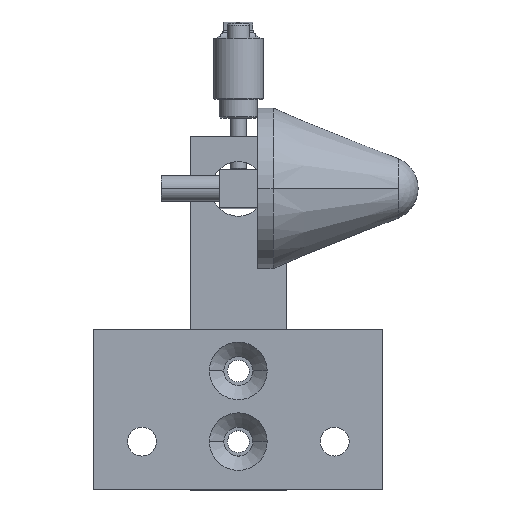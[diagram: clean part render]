
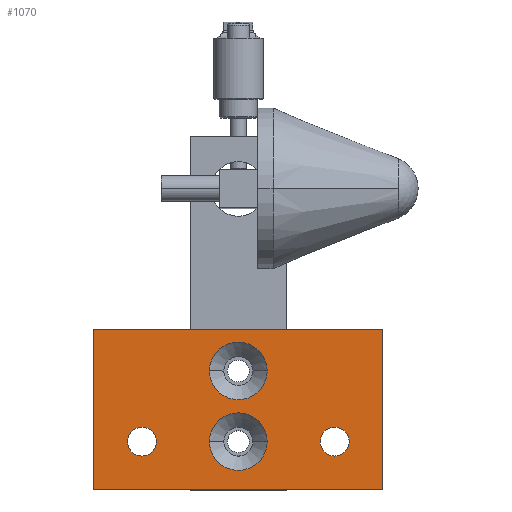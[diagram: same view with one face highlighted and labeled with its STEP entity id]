
A CAD part, top view. The second image highlights one B-rep face of the part: STEP entity #1070.
In plain terms, the highlighted planar face has unit normal (0, 0, 1).
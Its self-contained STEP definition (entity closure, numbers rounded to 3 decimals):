
#49 = EDGE_CURVE ( 'NONE', #2408, #571, #1381, .T. ) ;
#84 = VECTOR ( 'NONE', #3631, 1000. ) ;
#102 = DIRECTION ( 'NONE',  ( 1., 0., 0. ) ) ;
#206 = AXIS2_PLACEMENT_3D ( 'NONE', #3302, #3636, #1041 ) ;
#247 = AXIS2_PLACEMENT_3D ( 'NONE', #3630, #3945, #1648 ) ;
#287 = VERTEX_POINT ( 'NONE', #1773 ) ;
#296 = DIRECTION ( 'NONE',  ( 0., 0., 1. ) ) ;
#347 = DIRECTION ( 'NONE',  ( 1., 0., 0. ) ) ;
#380 = CARTESIAN_POINT ( 'NONE',  ( 0., 12., 5. ) ) ;
#430 = EDGE_LOOP ( 'NONE', ( #867, #4190, #1376, #1577 ) ) ;
#571 = VERTEX_POINT ( 'NONE', #3309 ) ;
#590 = AXIS2_PLACEMENT_3D ( 'NONE', #1762, #1409, #102 ) ;
#603 = CIRCLE ( 'NONE', #206, 4.5 ) ;
#627 = CARTESIAN_POINT ( 'NONE',  ( -45., -25., 5. ) ) ;
#661 = DIRECTION ( 'NONE',  ( 0., -1., 0. ) ) ;
#716 = CARTESIAN_POINT ( 'NONE',  ( -45., -25., 5. ) ) ;
#740 = CIRCLE ( 'NONE', #1638, 8.96 ) ;
#761 = DIRECTION ( 'NONE',  ( 1., 0., 0. ) ) ;
#841 = EDGE_CURVE ( 'NONE', #1361, #3232, #1243, .T. ) ;
#867 = ORIENTED_EDGE ( 'NONE', *, *, #3312, .T. ) ;
#927 = VECTOR ( 'NONE', #661, 1000. ) ;
#975 = CIRCLE ( 'NONE', #3960, 8.96 ) ;
#996 = CIRCLE ( 'NONE', #2132, 4.5 ) ;
#1041 = DIRECTION ( 'NONE',  ( 1., 0., 0. ) ) ;
#1045 = EDGE_CURVE ( 'NONE', #571, #2408, #4241, .T. ) ;
#1070 = ADVANCED_FACE ( 'NONE', ( #3347, #1199, #3779, #3521, #2725 ), #3062, .T. ) ;
#1112 = CARTESIAN_POINT ( 'NONE',  ( 8.96, -10., 5. ) ) ;
#1147 = EDGE_LOOP ( 'NONE', ( #1729, #4063 ) ) ;
#1182 = ORIENTED_EDGE ( 'NONE', *, *, #3419, .F. ) ;
#1196 = AXIS2_PLACEMENT_3D ( 'NONE', #2100, #1802, #3479 ) ;
#1199 = FACE_BOUND ( 'NONE', #1147, .T. ) ;
#1243 = CIRCLE ( 'NONE', #4147, 8.96 ) ;
#1361 = VERTEX_POINT ( 'NONE', #2855 ) ;
#1369 = CARTESIAN_POINT ( 'NONE',  ( 0., -10., 5. ) ) ;
#1376 = ORIENTED_EDGE ( 'NONE', *, *, #3025, .T. ) ;
#1381 = CIRCLE ( 'NONE', #247, 4.5 ) ;
#1409 = DIRECTION ( 'NONE',  ( 0., 0., 1. ) ) ;
#1426 = VERTEX_POINT ( 'NONE', #1112 ) ;
#1440 = EDGE_LOOP ( 'NONE', ( #2541, #2781 ) ) ;
#1474 = EDGE_LOOP ( 'NONE', ( #2660, #3253 ) ) ;
#1500 = EDGE_CURVE ( 'NONE', #1426, #2410, #740, .T. ) ;
#1566 = CARTESIAN_POINT ( 'NONE',  ( -30., -10., 5. ) ) ;
#1577 = ORIENTED_EDGE ( 'NONE', *, *, #2782, .T. ) ;
#1638 = AXIS2_PLACEMENT_3D ( 'NONE', #3159, #3504, #1868 ) ;
#1648 = DIRECTION ( 'NONE',  ( 1., 0., 0. ) ) ;
#1729 = ORIENTED_EDGE ( 'NONE', *, *, #1045, .F. ) ;
#1753 = AXIS2_PLACEMENT_3D ( 'NONE', #2293, #296, #347 ) ;
#1762 = CARTESIAN_POINT ( 'NONE',  ( -45., -25., 5. ) ) ;
#1773 = CARTESIAN_POINT ( 'NONE',  ( -45., 25., 5. ) ) ;
#1802 = DIRECTION ( 'NONE',  ( 0., 0., 1. ) ) ;
#1815 = CARTESIAN_POINT ( 'NONE',  ( 25.5, -10., 5. ) ) ;
#1845 = EDGE_LOOP ( 'NONE', ( #3655, #1182 ) ) ;
#1868 = DIRECTION ( 'NONE',  ( 1., 0., 0. ) ) ;
#2027 = VERTEX_POINT ( 'NONE', #2304 ) ;
#2100 = CARTESIAN_POINT ( 'NONE',  ( 0., 12., 5. ) ) ;
#2129 = DIRECTION ( 'NONE',  ( 0., 0., 1. ) ) ;
#2132 = AXIS2_PLACEMENT_3D ( 'NONE', #1566, #4218, #3500 ) ;
#2238 = VERTEX_POINT ( 'NONE', #2893 ) ;
#2253 = CIRCLE ( 'NONE', #1196, 8.96 ) ;
#2293 = CARTESIAN_POINT ( 'NONE',  ( 30., -10., 5. ) ) ;
#2304 = CARTESIAN_POINT ( 'NONE',  ( 45., 25., 5. ) ) ;
#2408 = VERTEX_POINT ( 'NONE', #1815 ) ;
#2410 = VERTEX_POINT ( 'NONE', #4101 ) ;
#2422 = EDGE_CURVE ( 'NONE', #3232, #1361, #2253, .T. ) ;
#2541 = ORIENTED_EDGE ( 'NONE', *, *, #2422, .F. ) ;
#2557 = VECTOR ( 'NONE', #761, 1000. ) ;
#2660 = ORIENTED_EDGE ( 'NONE', *, *, #1500, .F. ) ;
#2725 = FACE_OUTER_BOUND ( 'NONE', #430, .T. ) ;
#2747 = CARTESIAN_POINT ( 'NONE',  ( -34.5, -10., 5. ) ) ;
#2766 = LINE ( 'NONE', #3964, #927 ) ;
#2781 = ORIENTED_EDGE ( 'NONE', *, *, #841, .F. ) ;
#2782 = EDGE_CURVE ( 'NONE', #2027, #287, #3453, .T. ) ;
#2855 = CARTESIAN_POINT ( 'NONE',  ( -8.96, 12., 5. ) ) ;
#2893 = CARTESIAN_POINT ( 'NONE',  ( -25.5, -10., 5. ) ) ;
#2923 = EDGE_CURVE ( 'NONE', #4084, #3656, #3394, .T. ) ;
#3012 = CARTESIAN_POINT ( 'NONE',  ( -45., 25., 5. ) ) ;
#3025 = EDGE_CURVE ( 'NONE', #3656, #2027, #3452, .T. ) ;
#3043 = DIRECTION ( 'NONE',  ( 0., 1., 0. ) ) ;
#3062 = PLANE ( 'NONE',  #590 ) ;
#3086 = VERTEX_POINT ( 'NONE', #2747 ) ;
#3159 = CARTESIAN_POINT ( 'NONE',  ( 0., -10., 5. ) ) ;
#3232 = VERTEX_POINT ( 'NONE', #4212 ) ;
#3236 = VECTOR ( 'NONE', #3043, 1000. ) ;
#3253 = ORIENTED_EDGE ( 'NONE', *, *, #3574, .F. ) ;
#3302 = CARTESIAN_POINT ( 'NONE',  ( -30., -10., 5. ) ) ;
#3309 = CARTESIAN_POINT ( 'NONE',  ( 34.5, -10., 5. ) ) ;
#3312 = EDGE_CURVE ( 'NONE', #287, #4084, #2766, .T. ) ;
#3347 = FACE_BOUND ( 'NONE', #1845, .T. ) ;
#3394 = LINE ( 'NONE', #716, #2557 ) ;
#3419 = EDGE_CURVE ( 'NONE', #3086, #2238, #603, .T. ) ;
#3452 = LINE ( 'NONE', #3757, #3236 ) ;
#3453 = LINE ( 'NONE', #3012, #84 ) ;
#3479 = DIRECTION ( 'NONE',  ( 1., 0., 0. ) ) ;
#3500 = DIRECTION ( 'NONE',  ( 1., 0., 0. ) ) ;
#3504 = DIRECTION ( 'NONE',  ( 0., 0., 1. ) ) ;
#3521 = FACE_BOUND ( 'NONE', #1474, .T. ) ;
#3574 = EDGE_CURVE ( 'NONE', #2410, #1426, #975, .T. ) ;
#3630 = CARTESIAN_POINT ( 'NONE',  ( 30., -10., 5. ) ) ;
#3631 = DIRECTION ( 'NONE',  ( -1., 0., 0. ) ) ;
#3636 = DIRECTION ( 'NONE',  ( 0., 0., 1. ) ) ;
#3637 = DIRECTION ( 'NONE',  ( 0., 0., 1. ) ) ;
#3655 = ORIENTED_EDGE ( 'NONE', *, *, #4039, .F. ) ;
#3656 = VERTEX_POINT ( 'NONE', #4037 ) ;
#3757 = CARTESIAN_POINT ( 'NONE',  ( 45., 25., 5. ) ) ;
#3779 = FACE_BOUND ( 'NONE', #1440, .T. ) ;
#3945 = DIRECTION ( 'NONE',  ( 0., 0., 1. ) ) ;
#3960 = AXIS2_PLACEMENT_3D ( 'NONE', #1369, #3637, #4021 ) ;
#3964 = CARTESIAN_POINT ( 'NONE',  ( -45., 25., 5. ) ) ;
#4021 = DIRECTION ( 'NONE',  ( 1., 0., 0. ) ) ;
#4037 = CARTESIAN_POINT ( 'NONE',  ( 45., -25., 5. ) ) ;
#4039 = EDGE_CURVE ( 'NONE', #2238, #3086, #996, .T. ) ;
#4063 = ORIENTED_EDGE ( 'NONE', *, *, #49, .F. ) ;
#4084 = VERTEX_POINT ( 'NONE', #627 ) ;
#4101 = CARTESIAN_POINT ( 'NONE',  ( -8.96, -10., 5. ) ) ;
#4147 = AXIS2_PLACEMENT_3D ( 'NONE', #380, #2129, #4236 ) ;
#4190 = ORIENTED_EDGE ( 'NONE', *, *, #2923, .T. ) ;
#4212 = CARTESIAN_POINT ( 'NONE',  ( 8.96, 12., 5. ) ) ;
#4218 = DIRECTION ( 'NONE',  ( 0., 0., 1. ) ) ;
#4236 = DIRECTION ( 'NONE',  ( 1., 0., 0. ) ) ;
#4241 = CIRCLE ( 'NONE', #1753, 4.5 ) ;
